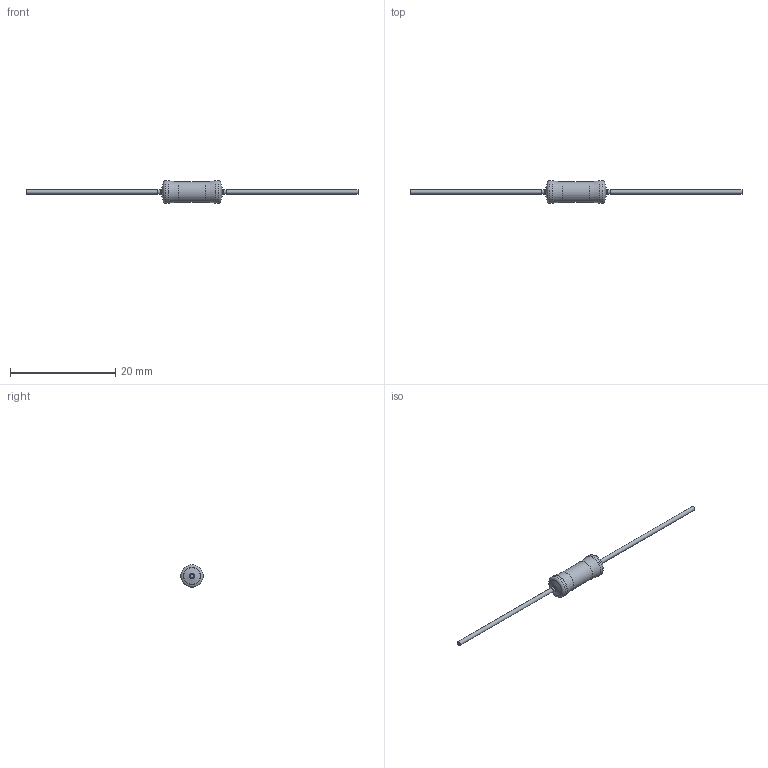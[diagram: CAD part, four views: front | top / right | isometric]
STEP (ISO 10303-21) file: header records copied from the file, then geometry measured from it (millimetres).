
FILE_DESCRIPTION(/* description */ (''),/* implementation_level */ '2;1');
FILE_NAME(/* name */ 'P:\Work\User\Special\CAD\Marketing\PAC01.stp',/* time_stamp */ '2020-02-19T08:50:18+01:00',/* author */ ('klepschi'),/* organization */ (''),/* preprocessor_version */ 'ST-DEVELOPER v16.5',/* originating_system */ 'Autodesk Inventor 2017',/* authorisation */ '');
FILE_SCHEMA (('AUTOMOTIVE_DESIGN { 1 0 10303 214 3 1 1 }'));
Length unit declared in the file: millimetre
Products named in the file (1): PAC01
Bounding box: 63 x 4.3 x 4.3 mm (x, y, z)
Volume: 166.5 mm3; surface area: 291.8 mm2
Topology: 1 solids, 1 shells, 27 faces, 47 edges, 28 vertices
Faces by surface type: cylinder 9, plane 8, torus 8, cone 2
Full cylindrical faces by diameter (mm): 0.798 x2, 0.8 x4, 3.9 x1, 4.3 x2
Entity records: 605 total; most frequent: DIRECTION 108, CARTESIAN_POINT 80, AXIS2_PLACEMENT_3D 54, EDGE_LOOP 52, ORIENTED_EDGE 52, STYLED_ITEM 28, FACE_OUTER_BOUND 27, ADVANCED_FACE 27
